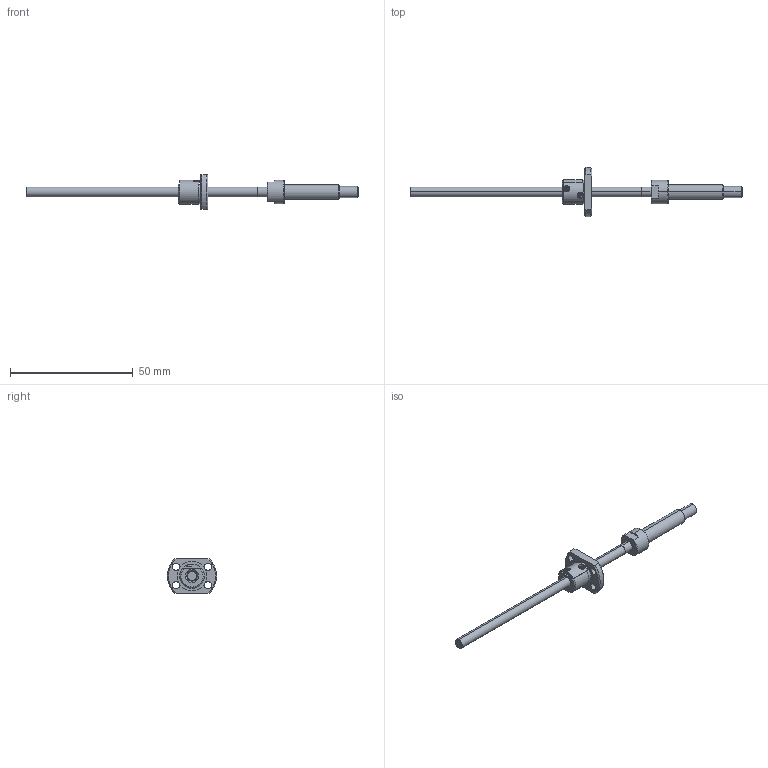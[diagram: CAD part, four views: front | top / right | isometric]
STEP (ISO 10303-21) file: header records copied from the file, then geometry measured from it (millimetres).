
FILE_DESCRIPTION (( 'STEP AP214' ), '1' );
FILE_NAME ('BS0401P-3D.STEP', '2014-03-05T15:14:28', ( '' ), ( '' ), 'SwSTEP 2.0', 'SolidWorks 2012', '' );
FILE_SCHEMA (( 'AUTOMOTIVE_DESIGN' ));
Length unit declared in the file: millimetre
Products named in the file (3): BS0401Pナット; BS0401PŽ²; BS0401P-3D
Assembly tree (2 placements, depth 2):
  BS0401P-3D
    BS0401PŽ²
    BS0401Pナット
Bounding box: 135 x 19.93 x 14 mm (x, y, z)
Volume: 3612.2 mm3; surface area: 3299.5 mm2
Topology: 2 solids, 2 shells, 127 faces, 308 edges, 197 vertices
Faces by surface type: plane 54, cylinder 49, cone 24
Entity records: 4016 total; most frequent: CARTESIAN_POINT 849, DIRECTION 666, ORIENTED_EDGE 616, EDGE_CURVE 308, AXIS2_PLACEMENT_3D 248, VERTEX_POINT 197, VECTOR 170, LINE 170
